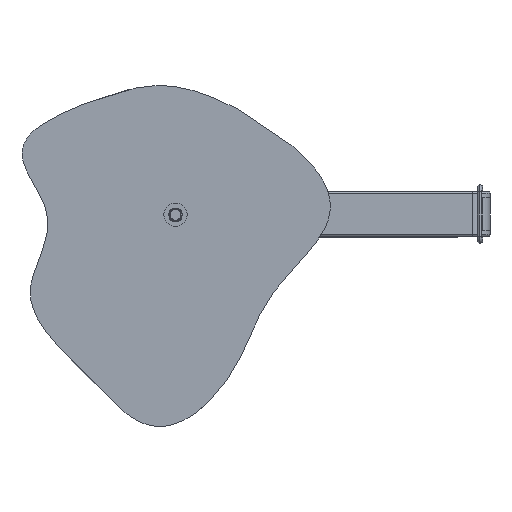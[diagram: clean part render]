
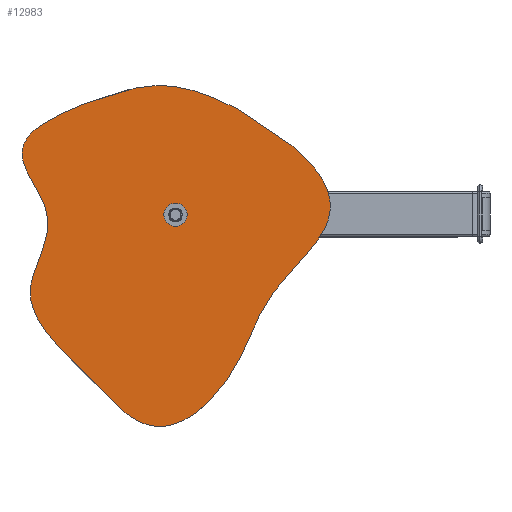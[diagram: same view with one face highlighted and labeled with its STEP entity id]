
A CAD part, left-side view. The second image highlights one B-rep face of the part: STEP entity #12983.
In plain terms, the highlighted planar face has unit normal (-1, 0, 0) as drawn and (0, 0, -1) by its records, which use the part's own axes.
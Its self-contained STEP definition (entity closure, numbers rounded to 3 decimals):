
#12792=CARTESIAN_POINT('Vertex',(-59.011,-35.127,0.)) ;
#12798=CARTESIAN_POINT('Control Point',(-59.011,-35.127,0.)) ;
#12799=CARTESIAN_POINT('Control Point',(-40.241,-67.52,0.)) ;
#12800=CARTESIAN_POINT('Control Point',(-23.241,-86.936,0.)) ;
#12801=CARTESIAN_POINT('Control Point',(-8.011,-93.372,0.)) ;
#12802=CARTESIAN_POINT('Control Point',(10.387,-84.43,0.)) ;
#12803=CARTESIAN_POINT('Control Point',(28.142,-67.588,0.)) ;
#12804=CARTESIAN_POINT('Control Point',(32.933,-62.929,0.)) ;
#12805=CARTESIAN_POINT('Control Point',(45.027,-52.578,0.)) ;
#12806=CARTESIAN_POINT('Control Point',(58.247,-45.379,0.)) ;
#12807=CARTESIAN_POINT('Control Point',(66.7,-42.42,0.)) ;
#12808=CARTESIAN_POINT('Control Point',(85.984,-34.293,0.)) ;
#12809=CARTESIAN_POINT('Control Point',(104.558,-20.494,0.)) ;
#12810=CARTESIAN_POINT('Control Point',(113.012,-11.109,0.)) ;
#12811=CARTESIAN_POINT('Control Point',(122.761,8.419,0.)) ;
#12812=CARTESIAN_POINT('Control Point',(114.932,26.061,0.)) ;
#12813=CARTESIAN_POINT('Control Point',(105.805,34.486,0.)) ;
#12814=CARTESIAN_POINT('Control Point',(85.333,54.773,0.)) ;
#12815=CARTESIAN_POINT('Control Point',(64.113,74.707,0.)) ;
#12816=CARTESIAN_POINT('Control Point',(54.495,82.623,0.)) ;
#12817=CARTESIAN_POINT('Control Point',(44.402,82.734,0.)) ;
#12818=CARTESIAN_POINT('Control Point',(33.8,79.657,0.)) ;
#12819=CARTESIAN_POINT('Vertex',(33.8,79.657,0.)) ;
#12882=CARTESIAN_POINT('Control Point',(33.8,79.657,0.)) ;
#12883=CARTESIAN_POINT('Control Point',(27.305,77.773,0.)) ;
#12884=CARTESIAN_POINT('Control Point',(20.62,74.692,0.)) ;
#12885=CARTESIAN_POINT('Control Point',(13.735,71.476,0.)) ;
#12886=CARTESIAN_POINT('Control Point',(-0.213,69.851,0.)) ;
#12887=CARTESIAN_POINT('Control Point',(-13.755,76.555,0.)) ;
#12888=CARTESIAN_POINT('Control Point',(-20.339,81.671,0.)) ;
#12889=CARTESIAN_POINT('Control Point',(-34.505,89.316,0.)) ;
#12890=CARTESIAN_POINT('Control Point',(-46.564,83.23,0.)) ;
#12891=CARTESIAN_POINT('Control Point',(-52.512,73.648,0.)) ;
#12892=CARTESIAN_POINT('Control Point',(-63.075,50.882,0.)) ;
#12893=CARTESIAN_POINT('Control Point',(-69.646,29.552,0.)) ;
#12894=CARTESIAN_POINT('Control Point',(-71.873,21.049,0.)) ;
#12895=CARTESIAN_POINT('Control Point',(-73.592,6.307,0.)) ;
#12896=CARTESIAN_POINT('Control Point',(-70.377,-9.046,0.)) ;
#12897=CARTESIAN_POINT('Control Point',(-67.727,-17.002,0.)) ;
#12898=CARTESIAN_POINT('Control Point',(-63.938,-25.695,0.)) ;
#12899=CARTESIAN_POINT('Control Point',(-59.011,-35.127,0.)) ;
#12956=CARTESIAN_POINT('Axis2P3D Location',(0.,0.,0.)) ;
#12965=CARTESIAN_POINT('Axis2P3D Location',(0.,0.,0.)) ;
#12969=CARTESIAN_POINT('Vertex',(-6.5,0.,0.)) ;
#12971=CARTESIAN_POINT('Vertex',(6.5,0.,0.)) ;
#12974=CARTESIAN_POINT('Axis2P3D Location',(0.,0.,0.)) ;
#12957=DIRECTION('Axis2P3D Direction',(0.,0.,1.)) ;
#12958=DIRECTION('Axis2P3D XDirection',(1.,0.,0.)) ;
#12966=DIRECTION('Axis2P3D Direction',(0.,0.,1.)) ;
#12975=DIRECTION('Axis2P3D Direction',(0.,0.,1.)) ;
#12959=AXIS2_PLACEMENT_3D('Plane Axis2P3D',#12956,#12957,#12958) ;
#12967=AXIS2_PLACEMENT_3D('Circle Axis2P3D',#12965,#12966,$) ;
#12976=AXIS2_PLACEMENT_3D('Circle Axis2P3D',#12974,#12975,$) ;
#12962=ORIENTED_EDGE('',*,*,#12900,.F.) ;
#12963=ORIENTED_EDGE('',*,*,#12821,.F.) ;
#12980=ORIENTED_EDGE('',*,*,#12973,.T.) ;
#12981=ORIENTED_EDGE('',*,*,#12978,.T.) ;
#12982=FACE_BOUND('',#12979,.T.) ;
#12983=ADVANCED_FACE('',(#12964,#12982),#12960,.F.) ;
#12797=B_SPLINE_CURVE_WITH_KNOTS('',5,(#12798,#12799,#12800,#12801,#12802,#12803,#12804,#12805,#12806,#12807,#12808,#12809,#12810,#12811,#12812,#12813,#12814,#12815,#12816,#12817,#12818),.UNSPECIFIED.,.F.,.U.,(6,3,3,3,3,3,6),(0.,87.712,119.903,166.972,219.455,278.106,334.715),.UNSPECIFIED.) ;
#12881=B_SPLINE_CURVE_WITH_KNOTS('',5,(#12882,#12883,#12884,#12885,#12886,#12887,#12888,#12889,#12890,#12891,#12892,#12893,#12894,#12895,#12896,#12897,#12898,#12899),.UNSPECIFIED.,.F.,.U.,(6,3,3,3,3,6),(334.715,369.391,404.633,449.366,497.28,539.796),.UNSPECIFIED.) ;
#12968=CIRCLE('generated circle',#12967,6.5) ;
#12977=CIRCLE('generated circle',#12976,6.5) ;
#12821=EDGE_CURVE('',#12793,#12820,#12797,.T.) ;
#12900=EDGE_CURVE('',#12820,#12793,#12881,.T.) ;
#12973=EDGE_CURVE('',#12970,#12972,#12968,.T.) ;
#12978=EDGE_CURVE('',#12972,#12970,#12977,.T.) ;
#12961=EDGE_LOOP('',(#12962,#12963)) ;
#12979=EDGE_LOOP('',(#12980,#12981)) ;
#12964=FACE_OUTER_BOUND('',#12961,.T.) ;
#12960=PLANE('Plane',#12959) ;
#12793=VERTEX_POINT('',#12792) ;
#12820=VERTEX_POINT('',#12819) ;
#12970=VERTEX_POINT('',#12969) ;
#12972=VERTEX_POINT('',#12971) ;
